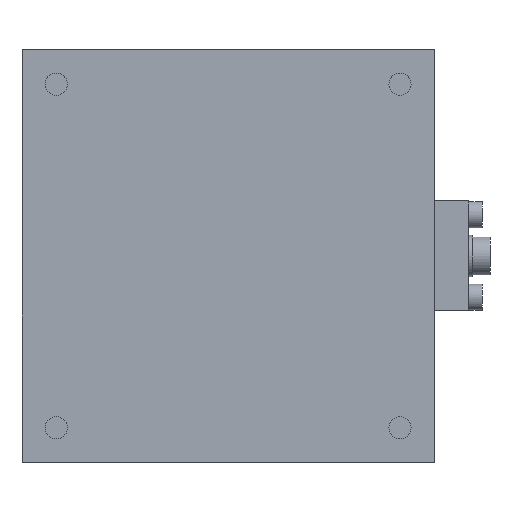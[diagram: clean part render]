
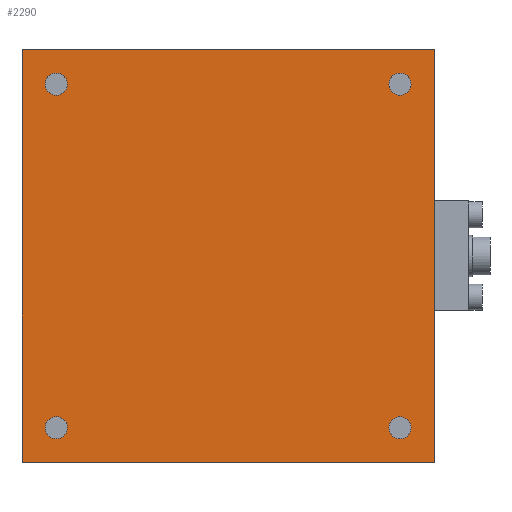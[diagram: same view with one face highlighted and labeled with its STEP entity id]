
A CAD part, top view. The second image highlights one B-rep face of the part: STEP entity #2290.
In plain terms, the highlighted planar face has unit normal (0, 0, 1).
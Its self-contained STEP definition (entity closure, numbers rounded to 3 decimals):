
#2155=CARTESIAN_POINT('Axis2P3D Location',(25.,25.,4.)) ;
#2159=CARTESIAN_POINT('Vertex',(26.621,25.,4.)) ;
#2161=CARTESIAN_POINT('Vertex',(23.379,25.,4.)) ;
#2181=CARTESIAN_POINT('Axis2P3D Location',(25.,25.,4.)) ;
#2193=CARTESIAN_POINT('Axis2P3D Location',(0.,-30.,4.)) ;
#2198=CARTESIAN_POINT('Line Origine',(0.,30.,4.)) ;
#2202=CARTESIAN_POINT('Vertex',(-30.,30.,4.)) ;
#2204=CARTESIAN_POINT('Vertex',(30.,30.,4.)) ;
#2207=CARTESIAN_POINT('Line Origine',(-30.,0.,4.)) ;
#2211=CARTESIAN_POINT('Vertex',(-30.,-30.,4.)) ;
#2214=CARTESIAN_POINT('Line Origine',(0.,-30.,4.)) ;
#2218=CARTESIAN_POINT('Vertex',(30.,-30.,4.)) ;
#2221=CARTESIAN_POINT('Line Origine',(30.,0.,4.)) ;
#2236=CARTESIAN_POINT('Axis2P3D Location',(-25.,25.,4.)) ;
#2240=CARTESIAN_POINT('Vertex',(-26.621,25.,4.)) ;
#2242=CARTESIAN_POINT('Vertex',(-23.379,25.,4.)) ;
#2245=CARTESIAN_POINT('Axis2P3D Location',(-25.,25.,4.)) ;
#2254=CARTESIAN_POINT('Axis2P3D Location',(25.,-25.,4.)) ;
#2258=CARTESIAN_POINT('Vertex',(23.379,-25.,4.)) ;
#2260=CARTESIAN_POINT('Vertex',(26.621,-25.,4.)) ;
#2263=CARTESIAN_POINT('Axis2P3D Location',(25.,-25.,4.)) ;
#2272=CARTESIAN_POINT('Axis2P3D Location',(-25.,-25.,4.)) ;
#2276=CARTESIAN_POINT('Vertex',(-26.621,-25.,4.)) ;
#2278=CARTESIAN_POINT('Vertex',(-23.379,-25.,4.)) ;
#2281=CARTESIAN_POINT('Axis2P3D Location',(-25.,-25.,4.)) ;
#2200=VECTOR('Line Direction',#2199,1.) ;
#2209=VECTOR('Line Direction',#2208,1.) ;
#2216=VECTOR('Line Direction',#2215,1.) ;
#2223=VECTOR('Line Direction',#2222,1.) ;
#2156=DIRECTION('Axis2P3D Direction',(0.,0.,-1.)) ;
#2182=DIRECTION('Axis2P3D Direction',(0.,0.,-1.)) ;
#2194=DIRECTION('Axis2P3D Direction',(0.,0.,-1.)) ;
#2195=DIRECTION('Axis2P3D XDirection',(0.,1.,0.)) ;
#2199=DIRECTION('Vector Direction',(1.,0.,0.)) ;
#2208=DIRECTION('Vector Direction',(0.,1.,0.)) ;
#2215=DIRECTION('Vector Direction',(1.,0.,0.)) ;
#2222=DIRECTION('Vector Direction',(0.,1.,0.)) ;
#2237=DIRECTION('Axis2P3D Direction',(0.,0.,-1.)) ;
#2246=DIRECTION('Axis2P3D Direction',(0.,0.,-1.)) ;
#2255=DIRECTION('Axis2P3D Direction',(0.,0.,-1.)) ;
#2264=DIRECTION('Axis2P3D Direction',(0.,0.,-1.)) ;
#2273=DIRECTION('Axis2P3D Direction',(0.,0.,-1.)) ;
#2282=DIRECTION('Axis2P3D Direction',(0.,0.,-1.)) ;
#2157=AXIS2_PLACEMENT_3D('Circle Axis2P3D',#2155,#2156,$) ;
#2183=AXIS2_PLACEMENT_3D('Circle Axis2P3D',#2181,#2182,$) ;
#2196=AXIS2_PLACEMENT_3D('Plane Axis2P3D',#2193,#2194,#2195) ;
#2238=AXIS2_PLACEMENT_3D('Circle Axis2P3D',#2236,#2237,$) ;
#2247=AXIS2_PLACEMENT_3D('Circle Axis2P3D',#2245,#2246,$) ;
#2256=AXIS2_PLACEMENT_3D('Circle Axis2P3D',#2254,#2255,$) ;
#2265=AXIS2_PLACEMENT_3D('Circle Axis2P3D',#2263,#2264,$) ;
#2274=AXIS2_PLACEMENT_3D('Circle Axis2P3D',#2272,#2273,$) ;
#2283=AXIS2_PLACEMENT_3D('Circle Axis2P3D',#2281,#2282,$) ;
#2201=LINE('Line',#2198,#2200) ;
#2210=LINE('Line',#2207,#2209) ;
#2217=LINE('Line',#2214,#2216) ;
#2224=LINE('Line',#2221,#2223) ;
#2158=CIRCLE('generated circle',#2157,1.621) ;
#2184=CIRCLE('generated circle',#2183,1.621) ;
#2239=CIRCLE('generated circle',#2238,1.621) ;
#2248=CIRCLE('generated circle',#2247,1.621) ;
#2257=CIRCLE('generated circle',#2256,1.621) ;
#2266=CIRCLE('generated circle',#2265,1.621) ;
#2275=CIRCLE('generated circle',#2274,1.621) ;
#2284=CIRCLE('generated circle',#2283,1.621) ;
#2197=PLANE('',#2196) ;
#2235=FACE_BOUND('',#2232,.T.) ;
#2253=FACE_BOUND('',#2250,.T.) ;
#2271=FACE_BOUND('',#2268,.T.) ;
#2289=FACE_BOUND('',#2286,.T.) ;
#2163=EDGE_CURVE('',#2160,#2162,#2158,.T.) ;
#2185=EDGE_CURVE('',#2162,#2160,#2184,.T.) ;
#2206=EDGE_CURVE('',#2203,#2205,#2201,.T.) ;
#2213=EDGE_CURVE('',#2203,#2212,#2210,.F.) ;
#2220=EDGE_CURVE('',#2212,#2219,#2217,.T.) ;
#2225=EDGE_CURVE('',#2205,#2219,#2224,.F.) ;
#2244=EDGE_CURVE('',#2241,#2243,#2239,.T.) ;
#2249=EDGE_CURVE('',#2243,#2241,#2248,.T.) ;
#2262=EDGE_CURVE('',#2259,#2261,#2257,.T.) ;
#2267=EDGE_CURVE('',#2261,#2259,#2266,.T.) ;
#2280=EDGE_CURVE('',#2277,#2279,#2275,.T.) ;
#2285=EDGE_CURVE('',#2279,#2277,#2284,.T.) ;
#2226=EDGE_LOOP('',(#2227,#2228,#2229,#2230)) ;
#2232=EDGE_LOOP('',(#2233,#2234)) ;
#2250=EDGE_LOOP('',(#2251,#2252)) ;
#2268=EDGE_LOOP('',(#2269,#2270)) ;
#2286=EDGE_LOOP('',(#2287,#2288)) ;
#2227=ORIENTED_EDGE('',*,*,#2206,.F.) ;
#2228=ORIENTED_EDGE('',*,*,#2213,.T.) ;
#2229=ORIENTED_EDGE('',*,*,#2220,.T.) ;
#2230=ORIENTED_EDGE('',*,*,#2225,.F.) ;
#2233=ORIENTED_EDGE('',*,*,#2185,.T.) ;
#2234=ORIENTED_EDGE('',*,*,#2163,.T.) ;
#2251=ORIENTED_EDGE('',*,*,#2244,.T.) ;
#2252=ORIENTED_EDGE('',*,*,#2249,.T.) ;
#2269=ORIENTED_EDGE('',*,*,#2262,.T.) ;
#2270=ORIENTED_EDGE('',*,*,#2267,.T.) ;
#2287=ORIENTED_EDGE('',*,*,#2280,.T.) ;
#2288=ORIENTED_EDGE('',*,*,#2285,.T.) ;
#2160=VERTEX_POINT('',#2159) ;
#2162=VERTEX_POINT('',#2161) ;
#2203=VERTEX_POINT('',#2202) ;
#2205=VERTEX_POINT('',#2204) ;
#2212=VERTEX_POINT('',#2211) ;
#2219=VERTEX_POINT('',#2218) ;
#2241=VERTEX_POINT('',#2240) ;
#2243=VERTEX_POINT('',#2242) ;
#2259=VERTEX_POINT('',#2258) ;
#2261=VERTEX_POINT('',#2260) ;
#2277=VERTEX_POINT('',#2276) ;
#2279=VERTEX_POINT('',#2278) ;
#2290=ADVANCED_FACE('\X2\FF8AFF9FFF70FF82\X0\ \X2\FF8EFF9EFF83FF9EFF68FF70\X0\',(#2231,#2235,#2253,#2271,#2289),#2197,.F.) ;
#2231=FACE_OUTER_BOUND('',#2226,.T.) ;
